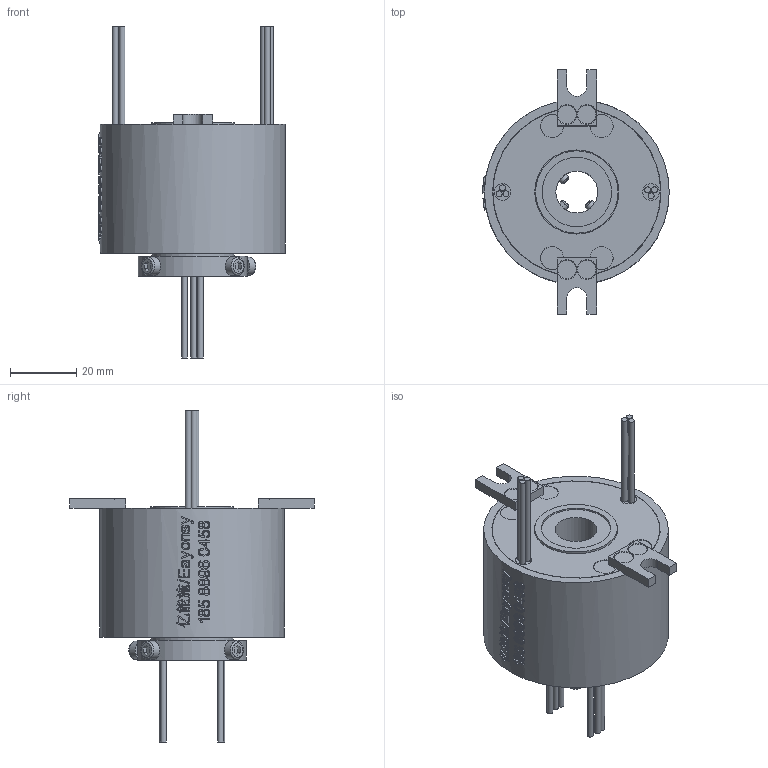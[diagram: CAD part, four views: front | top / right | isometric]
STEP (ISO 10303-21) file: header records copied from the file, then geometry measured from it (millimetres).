
FILE_DESCRIPTION(/* description */ (''),/* implementation_level */ '2;1');
FILE_NAME(/* name */ 'YDS1256-0610-3D模型.stp',/* time_stamp */ '2025-09-03T18:26:38+08:00',/* author */ (''),/* organization */ (''),/* preprocessor_version */ 'ST-DEVELOPER v16.7',/* originating_system */ 'SIEMENS PLM Software NX 12.0',/* authorisation */ '');
FILE_SCHEMA (('AUTOMOTIVE_DESIGN { 1 0 10303 214 3 1 1 1 }'));
Length unit declared in the file: millimetre
Products named in the file (1): Admi57E0E5BE09j6
Bounding box: 56.5 x 74 x 100.6 mm (x, y, z)
Volume: 97862 mm3; surface area: 20046.6 mm2
Topology: 1 solids, 3 shells, 942 faces, 2504 edges, 1663 vertices
Faces by surface type: extrusion 479, plane 335, cylinder 83, bspline 33, cone 8, torus 4
Full cylindrical faces by diameter (mm): 1.8 x12, 2.5 x2, 2.6 x1, 3 x11, 5 x2, 5.5 x4, 7 x8, 12.7 x1, 21 x1, 25 x2, 25.5 x2, 28 x2, 28.1 x2, 33 x1, 50.8 x2, 51 x2, 56 x1
Entity records: 37740 total; most frequent: CARTESIAN_POINT 18099, ORIENTED_EDGE 4820, EDGE_CURVE 2410, B_SPLINE_CURVE_WITH_KNOTS 2303, DIRECTION 2227, VERTEX_POINT 1637, EDGE_LOOP 1119, ADVANCED_FACE 942
